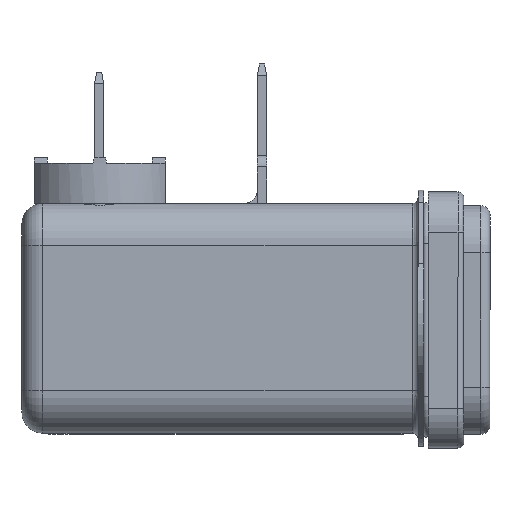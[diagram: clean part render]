
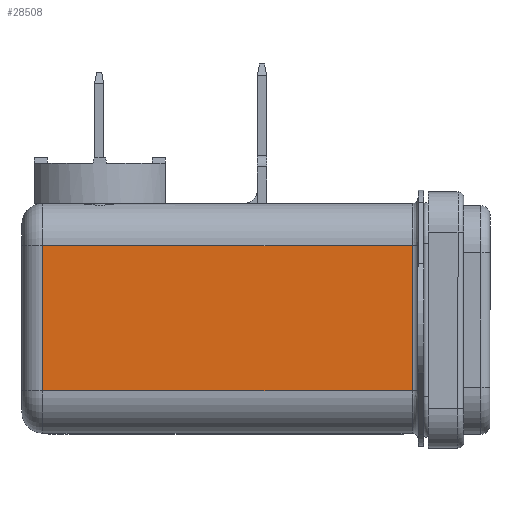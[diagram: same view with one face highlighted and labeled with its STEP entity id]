
A CAD part, left-side view. The second image highlights one B-rep face of the part: STEP entity #28508.
In plain terms, the highlighted planar face has unit normal (-1, 0, 0).
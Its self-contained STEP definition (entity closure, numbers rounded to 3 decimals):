
#26042=CARTESIAN_POINT('',(-13.8,33.35,6.35));
#26043=VERTEX_POINT('',#26042);
#26051=CARTESIAN_POINT('',(-13.8,1.,6.35));
#26052=VERTEX_POINT('',#26051);
#26053=CARTESIAN_POINT('',(-13.8,1.,6.35));
#26054=DIRECTION('',(0.0,1.0,0.0));
#26055=VECTOR('',#26054,32.35);
#26056=LINE('',#26053,#26055);
#26057=EDGE_CURVE('',#26052,#26043,#26056,.T.);
#28155=CARTESIAN_POINT('',(-13.8,1.,-6.35));
#28156=VERTEX_POINT('',#28155);
#28173=CARTESIAN_POINT('',(-13.8,1.,6.35));
#28174=DIRECTION('',(0.0,0.0,-1.0));
#28175=VECTOR('',#28174,12.7);
#28176=LINE('',#28173,#28175);
#28177=EDGE_CURVE('',#26052,#28156,#28176,.T.);
#28471=CARTESIAN_POINT('',(-13.8,33.35,-6.35));
#28472=VERTEX_POINT('',#28471);
#28473=CARTESIAN_POINT('',(-13.8,1.,-6.35));
#28474=DIRECTION('',(0.0,1.0,0.0));
#28475=VECTOR('',#28474,32.35);
#28476=LINE('',#28473,#28475);
#28477=EDGE_CURVE('',#28156,#28472,#28476,.T.);
#28492=CARTESIAN_POINT('',(-13.8,0.,6.35));
#28493=DIRECTION('',(-1.0,0.0,0.0));
#28494=DIRECTION('',(0.0,0.0,1.0));
#28495=AXIS2_PLACEMENT_3D('',#28492,#28493,#28494);
#28496=PLANE('',#28495);
#28497=ORIENTED_EDGE('',*,*,#28177,.F.);
#28498=ORIENTED_EDGE('',*,*,#26057,.T.);
#28499=CARTESIAN_POINT('',(-13.8,33.35,-6.35));
#28500=DIRECTION('',(0.0,0.0,1.0));
#28501=VECTOR('',#28500,12.7);
#28502=LINE('',#28499,#28501);
#28503=EDGE_CURVE('',#28472,#26043,#28502,.T.);
#28504=ORIENTED_EDGE('',*,*,#28503,.F.);
#28505=ORIENTED_EDGE('',*,*,#28477,.F.);
#28506=EDGE_LOOP('',(#28497,#28498,#28504,#28505));
#28507=FACE_OUTER_BOUND('',#28506,.T.);
#28508=ADVANCED_FACE('',(#28507),#28496,.T.);
